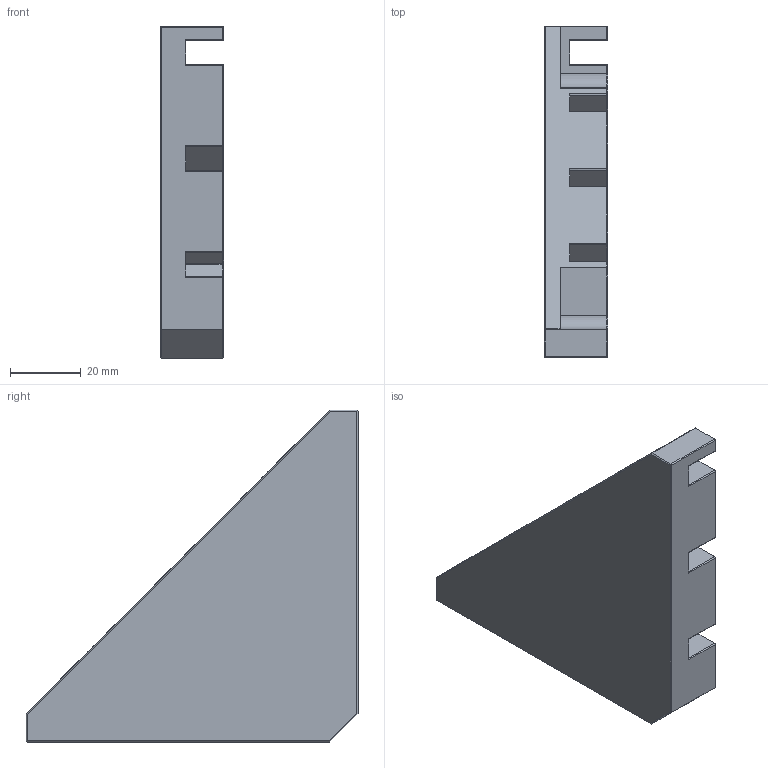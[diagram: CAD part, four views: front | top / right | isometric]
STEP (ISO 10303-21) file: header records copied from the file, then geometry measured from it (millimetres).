
FILE_DESCRIPTION (( 'STEP AP203' ), '1' );
FILE_NAME ('MW904512-Montagewinkel.STEP', '2013-08-19T16:03:45', ( 'MM01' ), ( '' ), 'SwSTEP 2.0', 'SolidWorks 2012', '' );
FILE_SCHEMA (( 'CONFIG_CONTROL_DESIGN' ));
Length unit declared in the file: millimetre
Products named in the file (1): MW904512-Montagewinkel
Bounding box: 18 x 94 x 94 mm (x, y, z)
Volume: 46812.7 mm3; surface area: 19212.1 mm2
Topology: 1 solids, 1 shells, 163 faces, 466 edges, 305 vertices
Faces by surface type: plane 108, cylinder 50, cone 5
Entity records: 5319 total; most frequent: CARTESIAN_POINT 1211, ORIENTED_EDGE 932, DIRECTION 760, EDGE_CURVE 466, LINE 316, VECTOR 316, VERTEX_POINT 305, AXIS2_PLACEMENT_3D 222
